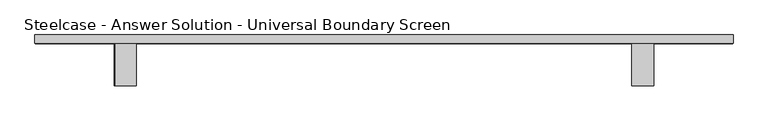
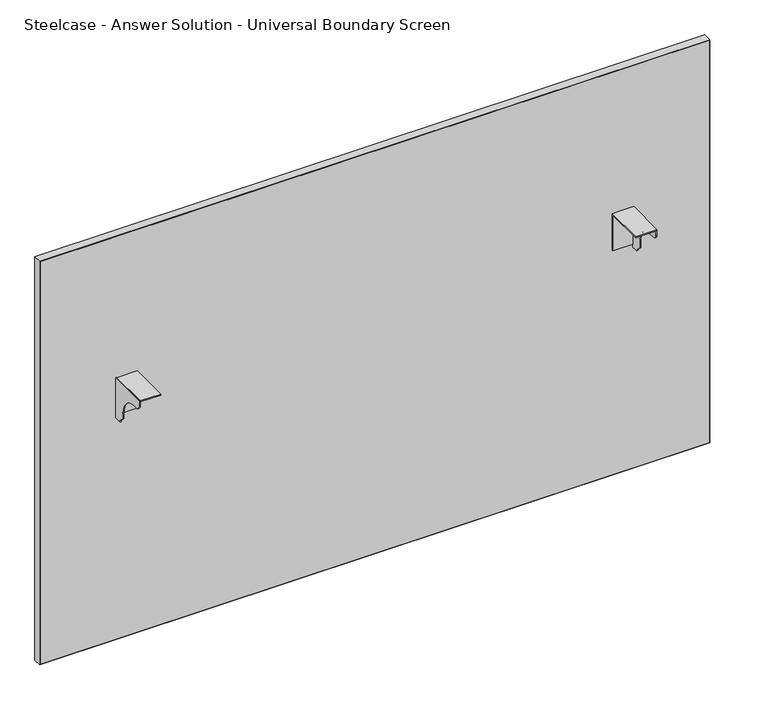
"""IFC4 building model written with IfcOpenShell, lengths in millimetres: furniture geometry, Steelcase - Answer Solution - Universal Boundary Screen : 42H x 66W."""

from ifc_helpers import new_model, si_unit, point, frame, frame_2d, origin, place, context, project, spatial, polyline, circle_curve, trimmed, segment, composite_curve, outline, extrude, source, transform, mapped, element, save


def steelcase_answer_solution_universal_boundary_screen_b5f66c7b(model_context):
    return source(origin(), model_context, "Body", "SweptSolid", [
        extrude(outline(polyline([(-103.1670434, 689.3558876), (-103.1670434, 692.1499758), (-1.5668826, 692.1499758), (-1.5668826, 595.5029317), (-4.1079736, 595.5029317), (-4.1079736, 689.3558876), (-103.1670434, 689.3558876)])), frame((1124.4336711, 0.0, 0.0), z_axis=(1.0, 0.0, 0.0), x_axis=(0.0, 1.0, 0.0)), (0.0, 0.0, 1.0), 53.3444116),
        extrude(outline(composite_curve([segment(polyline([(-103.1670434, 679.2814802), (-103.1670434, 692.1499758), (-1.5668826, 692.1499758), (-1.5668826, 586.9634093), (-19.8232934, 586.9634093), (-19.8232934, 589.7574248), (-32.0458032, 601.9799346), (-32.0458032, 615.7814802)]), True, "CONTINUOUS"), segment(trimmed(circle_curve(frame_2d((-82.8458032, 615.7814802)), 50.8), [point((-32.0458032, 615.7814802))], [point((-82.8458032, 666.5814802))], True, "CARTESIAN"), True, "CONTINUOUS"), segment(polyline([(-82.8458032, 666.5814802), (-90.4670434, 666.5814802)]), True, "CONTINUOUS"), segment(trimmed(circle_curve(frame_2d((-90.4670434, 679.2814802)), 12.7), [point((-90.4670434, 666.5814802))], [point((-103.1670434, 679.2814802))], False, "CARTESIAN"), True, "CONTINUOUS")], self_intersect=False)), frame((1175.2328959, 0.0, 0.0), z_axis=(1.0, 0.0, 0.0), x_axis=(0.0, 1.0, 0.0)), (0.0, 0.0, 1.0), 2.5451868),
        extrude(outline(polyline([(-103.1670434, 689.3558876), (-103.1670434, 692.1499758), (-1.5668826, 692.1499758), (-1.5668826, 595.5029317), (-4.1079736, 595.5029317), (-4.1079736, 689.3558876), (-103.1670434, 689.3558876)])), frame((-115.0767306, 0.0, 0.0), z_axis=(1.0, 0.0, 0.0), x_axis=(0.0, 1.0, 0.0)), (0.0, 0.0, 1.0), 50.7992249),
        extrude(outline(composite_curve([segment(polyline([(-103.1670434, 679.2814802), (-103.1670434, 692.1499758), (-1.5668826, 692.1499758), (-1.5668826, 586.9634093), (-19.8232934, 586.9634093), (-19.8232934, 589.7574248), (-32.0458032, 601.9799346), (-32.0458032, 615.7814802)]), True, "CONTINUOUS"), segment(trimmed(circle_curve(frame_2d((-82.8458032, 615.7814802)), 50.8), [point((-32.0458032, 615.7814802))], [point((-82.8458032, 666.5814802))], True, "CARTESIAN"), True, "CONTINUOUS"), segment(polyline([(-82.8458032, 666.5814802), (-90.4670434, 666.5814802)]), True, "CONTINUOUS"), segment(trimmed(circle_curve(frame_2d((-90.4670434, 679.2814802)), 12.7), [point((-90.4670434, 666.5814802))], [point((-103.1670434, 679.2814802))], False, "CARTESIAN"), True, "CONTINUOUS")], self_intersect=False)), frame((-117.6219173, 0.0, 0.0), z_axis=(1.0, 0.0, 0.0), x_axis=(0.0, 1.0, 0.0)), (0.0, 0.0, 1.0), 2.5451868),
        extrude(outline(polyline([(-307.1293422, 18.9055112), (1367.2855076, 18.9055112), (1367.2855076, -1.5668826), (-307.1293422, -1.5668826), (-307.1293422, 18.9055112)])), frame((0.0, 0.0, 1.016), z_axis=(0.0, 0.0, 1.0), x_axis=(1.0, 0.0, 0.0)), (0.0, 0.0, 1.0), 1064.7914249),
        extrude(outline(polyline([(1066.8, 1368.2780827), (1066.8, -308.1219173), (0.0, -308.1219173), (0.0, 1368.2780827), (1066.8, 1368.2780827)]), holes=[polyline([(1065.8074249, 1367.2855076), (1.016, 1367.2855076), (1.016, -307.1293422), (1065.8074249, -307.1293422), (1065.8074249, 1367.2855076)])]), frame((0.0, -1.5668826, 0.0), z_axis=(0.0, 1.0, 0.0), x_axis=(0.0, 0.0, 1.0)), (0.0, 0.0, 1.0), 20.4723938),
    ])


if __name__ == "__main__":
    model = new_model("IFC4")
    model_context = context("Model", 3, world=origin())
    ifc_project = project(units=[si_unit("LENGTHUNIT", "METRE", prefix="MILLI")], contexts=[model_context])
    site = spatial("IfcSite", under=ifc_project)
    building = spatial("IfcBuilding", under=site)
    placement = place(None, origin())
    steelcase_answer_solution_universal_boundary_screen_shape = steelcase_answer_solution_universal_boundary_screen_b5f66c7b(model_context)
    element("IfcFurniture", 1, ObjectType="Steelcase - Answer Solution - Universal Boundary Screen : 42H x 66W", at=placement, inside=building, context=model_context, shape_type="MappedRepresentation", body=[
        mapped(steelcase_answer_solution_universal_boundary_screen_shape, transform((0.0, 0.0, 0.0), x_axis=(1.0, 0.0, 0.0), y_axis=(0.0, 1.0, 0.0), z_axis=(0.0, 0.0, 1.0))),
    ])
    save(model, "model.ifc")
